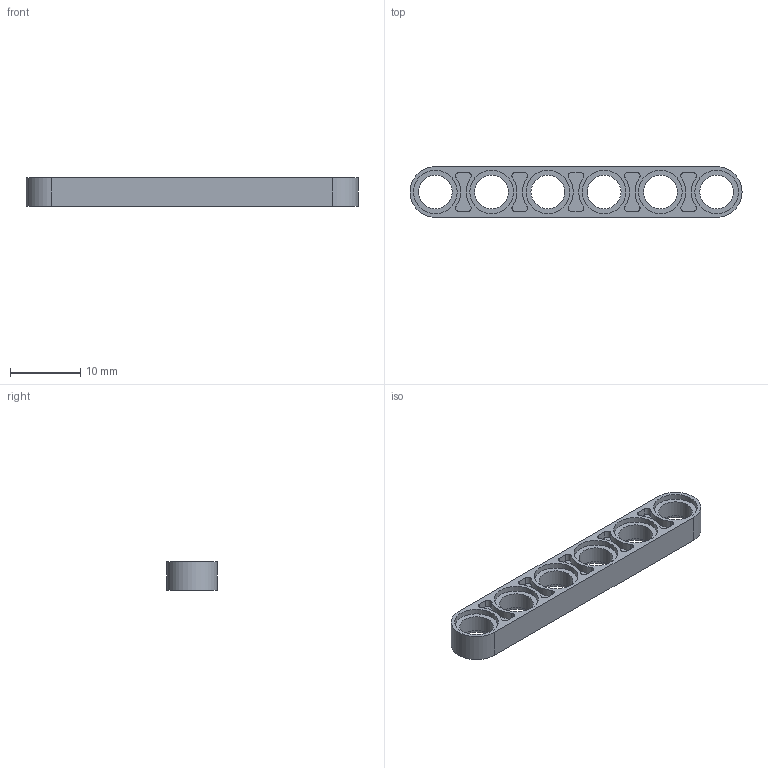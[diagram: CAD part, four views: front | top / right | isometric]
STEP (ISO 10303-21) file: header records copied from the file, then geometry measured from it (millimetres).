
FILE_DESCRIPTION(/* description */ ('Unknown'),/* implementation_level */ '2;1');
FILE_NAME(/* name */ 'ClGray_4211586_AVV',/* time_stamp */ '2025-07-21T23:51:20+02:00',/* author */ ('Unknown'),/* organization */ ('Unknown'),/* preprocessor_version */ 'ST-DEVELOPER v19.4',/* originating_system */ 'Solid Edge',/* authorisation */ 'Unknown');
FILE_SCHEMA (('AUTOMOTIVE_DESIGN {1 0 10303 214 3 1 1}'));
Length unit declared in the file: millimetre
Products named in the file (1): ClGray_4211586_AVV
Bounding box: 47.2 x 7.2 x 4 mm (x, y, z)
Volume: 676 mm3; surface area: 1423.6 mm2
Topology: 1 solids, 1 shells, 126 faces, 306 edges, 204 vertices
Faces by surface type: cylinder 80, plane 46
Full cylindrical faces by diameter (mm): 4.8 x6, 6.2 x12
Entity records: 3734 total; most frequent: DIRECTION 702, CARTESIAN_POINT 619, ORIENTED_EDGE 576, EDGE_CURVE 288, AXIS2_PLACEMENT_3D 287, VERTEX_POINT 204, EDGE_LOOP 178, FACE_BOUND 178
